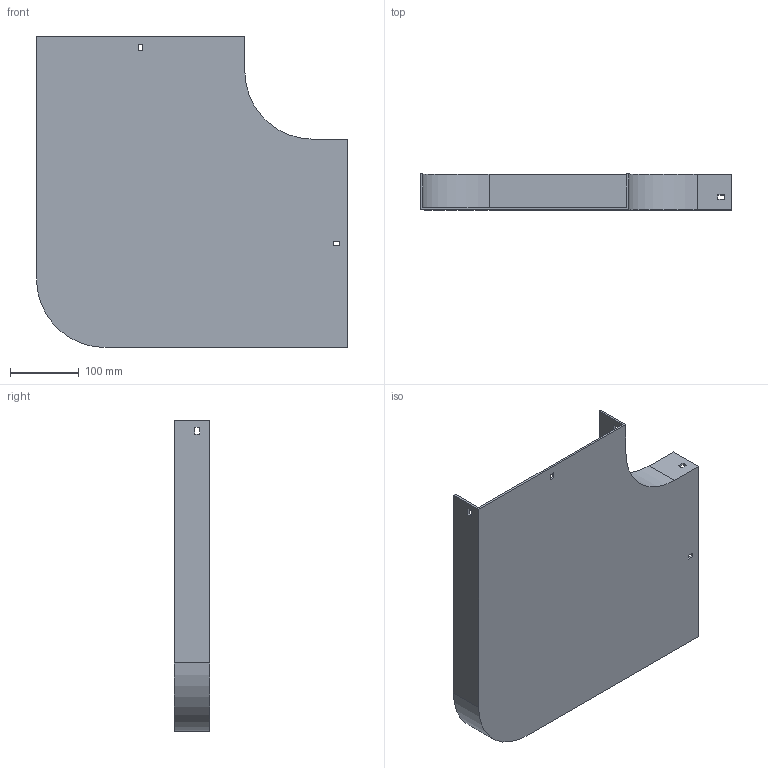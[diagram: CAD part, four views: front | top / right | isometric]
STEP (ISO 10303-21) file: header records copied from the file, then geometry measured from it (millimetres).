
FILE_DESCRIPTION (( 'STEP AP214' ), '1' );
FILE_NAME ('10B1B300.step', '2025-02-21T09:40:38', ( '' ), ( '' ), 'SwSTEP 2.0', 'SolidWorks 2023', '' );
FILE_SCHEMA (( 'AUTOMOTIVE_DESIGN' ));
Length unit declared in the file: millimetre
Products named in the file (1): 10B1B300
Bounding box: 454 x 52 x 454 mm (x, y, z)
Volume: 831753 mm3; surface area: 482715 mm2
Topology: 1 solids, 1 shells, 42 faces, 120 edges, 80 vertices
Faces by surface type: plane 38, cylinder 4
Entity records: 1399 total; most frequent: CARTESIAN_POINT 243, ORIENTED_EDGE 240, DIRECTION 214, EDGE_CURVE 120, LINE 112, VECTOR 112, VERTEX_POINT 80, EDGE_LOOP 54
